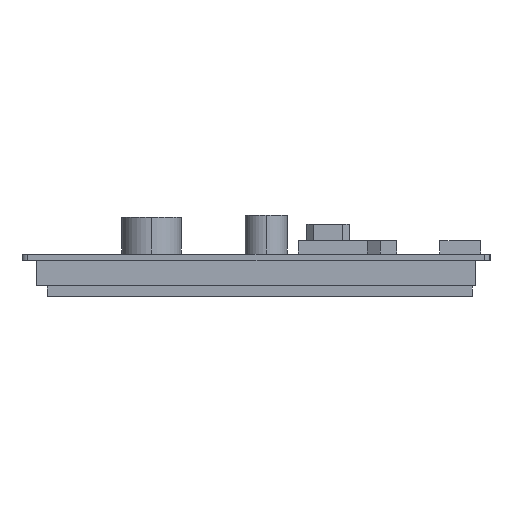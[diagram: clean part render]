
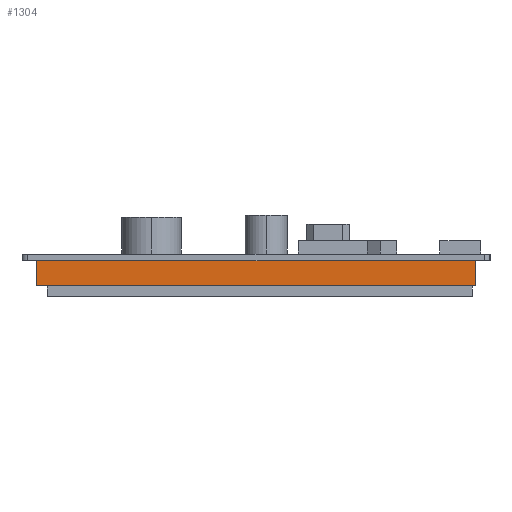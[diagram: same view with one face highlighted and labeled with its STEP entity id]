
A CAD part, left-side view. The second image highlights one B-rep face of the part: STEP entity #1304.
In plain terms, the highlighted planar face has unit normal (-1, 0, 0).
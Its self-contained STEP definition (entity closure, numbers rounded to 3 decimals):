
#342=DIRECTION('',(0.,-1.,0.));
#343=VECTOR('',#342,65.9);
#344=CARTESIAN_POINT('',(1094.079,514.636,-1.));
#345=LINE('',#344,#343);
#346=DIRECTION('',(0.,0.,1.));
#347=VECTOR('',#346,3.75);
#348=CARTESIAN_POINT('',(1094.079,514.636,-4.75));
#349=LINE('',#348,#347);
#354=DIRECTION('',(0.,0.,1.));
#355=VECTOR('',#354,3.75);
#356=CARTESIAN_POINT('',(1094.079,448.736,-4.75));
#357=LINE('',#356,#355);
#382=DIRECTION('',(0.,-1.,0.));
#383=VECTOR('',#382,65.9);
#384=CARTESIAN_POINT('',(1094.079,514.636,-4.75));
#385=LINE('',#384,#383);
#814=CARTESIAN_POINT('',(1094.079,514.636,-1.));
#815=CARTESIAN_POINT('',(1094.079,448.736,-1.));
#816=VERTEX_POINT('',#814);
#817=VERTEX_POINT('',#815);
#822=CARTESIAN_POINT('',(1094.079,448.736,-4.75));
#823=VERTEX_POINT('',#822);
#824=CARTESIAN_POINT('',(1094.079,514.636,-4.75));
#825=VERTEX_POINT('',#824);
#1290=CARTESIAN_POINT('',(1094.079,448.736,-1.));
#1291=DIRECTION('',(-1.,0.,0.));
#1292=DIRECTION('',(0.,1.,0.));
#1293=AXIS2_PLACEMENT_3D('',#1290,#1291,#1292);
#1294=PLANE('',#1293);
#1295=ORIENTED_EDGE('',*,*,#1241,.T.);
#1297=ORIENTED_EDGE('',*,*,#1296,.F.);
#1299=ORIENTED_EDGE('',*,*,#1298,.F.);
#1301=ORIENTED_EDGE('',*,*,#1300,.T.);
#1302=EDGE_LOOP('',(#1295,#1297,#1299,#1301));
#1303=FACE_OUTER_BOUND('',#1302,.F.);
#1241=EDGE_CURVE('',#816,#817,#345,.T.);
#1296=EDGE_CURVE('',#823,#817,#357,.T.);
#1298=EDGE_CURVE('',#825,#823,#385,.T.);
#1300=EDGE_CURVE('',#825,#816,#349,.T.);
#1304=ADVANCED_FACE('',(#1303),#1294,.T.);
